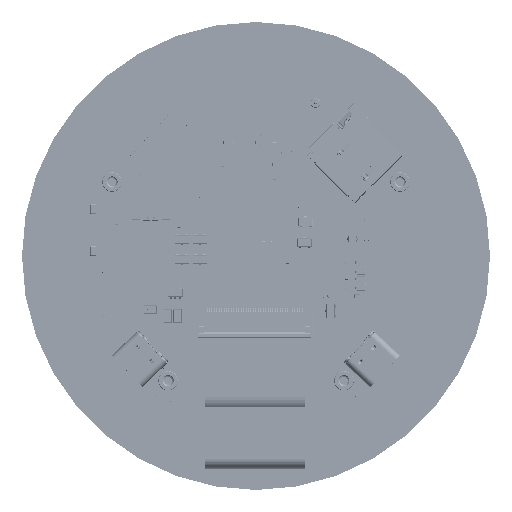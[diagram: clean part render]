
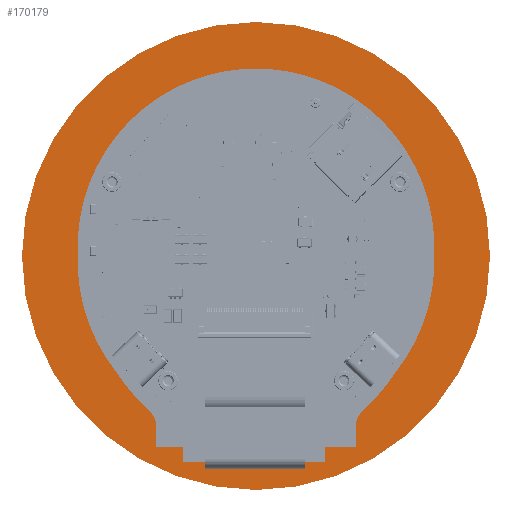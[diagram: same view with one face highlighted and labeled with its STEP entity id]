
A CAD part, top view. The second image highlights one B-rep face of the part: STEP entity #170179.
In plain terms, the highlighted planar face has unit normal (0, 0, 1) as drawn and (0, 0, -1) by its records, which use the part's own axes.
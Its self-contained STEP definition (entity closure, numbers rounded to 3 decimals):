
#5478=FACE_BOUND('',#27482,.T.);
#8432=CIRCLE('',#182429,36.32);
#8434=CIRCLE('',#182434,47.93);
#18461=FACE_OUTER_BOUND('',#27481,.T.);
#27481=EDGE_LOOP('',(#154496));
#27482=EDGE_LOOP('',(#154497));
#82808=VERTEX_POINT('',#308838);
#82810=VERTEX_POINT('',#308846);
#106740=EDGE_CURVE('',#82808,#82808,#8432,.T.);
#106743=EDGE_CURVE('',#82810,#82810,#8434,.T.);
#154496=ORIENTED_EDGE('',*,*,#106743,.F.);
#154497=ORIENTED_EDGE('',*,*,#106740,.T.);
#161608=PLANE('',#182436);
#170179=ADVANCED_FACE('',(#18461,#5478),#161608,.F.);
#182429=AXIS2_PLACEMENT_3D('',#308840,#224640,#224641);
#182434=AXIS2_PLACEMENT_3D('',#308848,#224651,#224652);
#182436=AXIS2_PLACEMENT_3D('',#308850,#224655,#224656);
#224640=DIRECTION('center_axis',(0.,0.,1.));
#224641=DIRECTION('ref_axis',(1.,0.,0.));
#224651=DIRECTION('center_axis',(0.,0.,1.));
#224652=DIRECTION('ref_axis',(1.,0.,0.));
#224655=DIRECTION('center_axis',(0.,0.,1.));
#224656=DIRECTION('ref_axis',(1.,0.,0.));
#308838=CARTESIAN_POINT('',(-36.32,0.,0.));
#308840=CARTESIAN_POINT('Origin',(0.,0.,0.));
#308846=CARTESIAN_POINT('',(-47.93,0.,0.));
#308848=CARTESIAN_POINT('Origin',(0.,0.,0.));
#308850=CARTESIAN_POINT('Origin',(0.,0.,0.));
